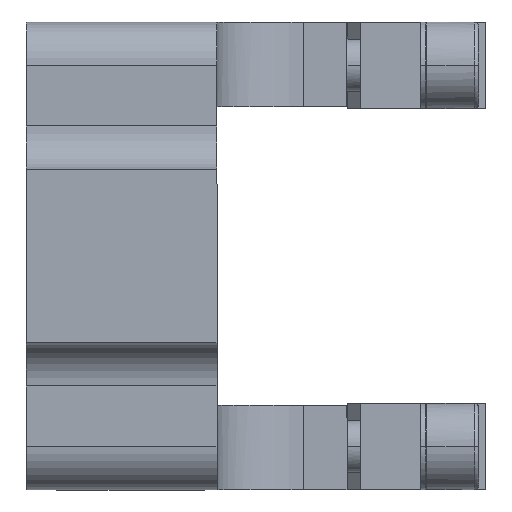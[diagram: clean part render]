
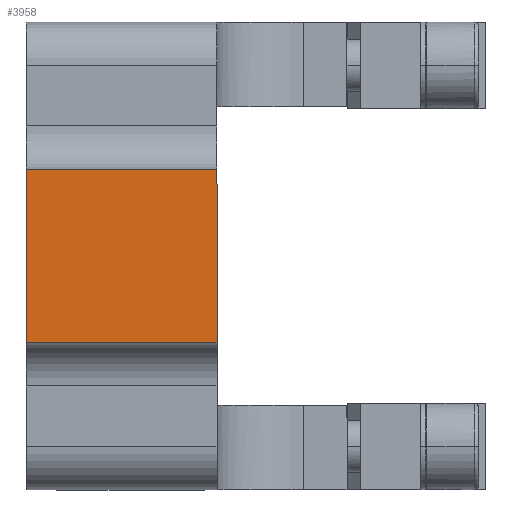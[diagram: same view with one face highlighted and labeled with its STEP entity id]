
A CAD part, left-side view. The second image highlights one B-rep face of the part: STEP entity #3958.
In plain terms, the highlighted planar face has unit normal (-1, 0, 0).
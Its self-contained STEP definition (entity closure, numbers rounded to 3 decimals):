
#3919=CARTESIAN_POINT('Axis2P3D Location',(-140.,37.,10.)) ;
#3924=CARTESIAN_POINT('Line Origine',(-140.,26.,10.)) ;
#3928=CARTESIAN_POINT('Vertex',(-140.,37.,10.)) ;
#3930=CARTESIAN_POINT('Vertex',(-140.,15.,10.)) ;
#3933=CARTESIAN_POINT('Line Origine',(-140.,37.,0.)) ;
#3937=CARTESIAN_POINT('Vertex',(-140.,37.,-10.)) ;
#3940=CARTESIAN_POINT('Line Origine',(-140.,26.,-10.)) ;
#3944=CARTESIAN_POINT('Vertex',(-140.,15.,-10.)) ;
#3947=CARTESIAN_POINT('Line Origine',(-140.,15.,0.)) ;
#3920=DIRECTION('Axis2P3D Direction',(-1.,0.,0.)) ;
#3921=DIRECTION('Axis2P3D XDirection',(0.,0.,-1.)) ;
#3925=DIRECTION('Vector Direction',(0.,-1.,0.)) ;
#3934=DIRECTION('Vector Direction',(0.,0.,-1.)) ;
#3941=DIRECTION('Vector Direction',(0.,-1.,0.)) ;
#3948=DIRECTION('Vector Direction',(0.,0.,-1.)) ;
#3922=AXIS2_PLACEMENT_3D('Plane Axis2P3D',#3919,#3920,#3921) ;
#3953=ORIENTED_EDGE('',*,*,#3932,.F.) ;
#3954=ORIENTED_EDGE('',*,*,#3939,.T.) ;
#3955=ORIENTED_EDGE('',*,*,#3946,.T.) ;
#3956=ORIENTED_EDGE('',*,*,#3951,.F.) ;
#3926=VECTOR('Line Direction',#3925,1.) ;
#3935=VECTOR('Line Direction',#3934,1.) ;
#3942=VECTOR('Line Direction',#3941,1.) ;
#3949=VECTOR('Line Direction',#3948,1.) ;
#3958=ADVANCED_FACE('Brep With Voids',(#3957),#3923,.T.) ;
#3932=EDGE_CURVE('',#3929,#3931,#3927,.T.) ;
#3939=EDGE_CURVE('',#3929,#3938,#3936,.T.) ;
#3946=EDGE_CURVE('',#3938,#3945,#3943,.T.) ;
#3951=EDGE_CURVE('',#3931,#3945,#3950,.T.) ;
#3952=EDGE_LOOP('',(#3953,#3954,#3955,#3956)) ;
#3957=FACE_OUTER_BOUND('',#3952,.T.) ;
#3927=LINE('Line',#3924,#3926) ;
#3936=LINE('Line',#3933,#3935) ;
#3943=LINE('Line',#3940,#3942) ;
#3950=LINE('Line',#3947,#3949) ;
#3923=PLANE('Plane',#3922) ;
#3929=VERTEX_POINT('',#3928) ;
#3931=VERTEX_POINT('',#3930) ;
#3938=VERTEX_POINT('',#3937) ;
#3945=VERTEX_POINT('',#3944) ;
